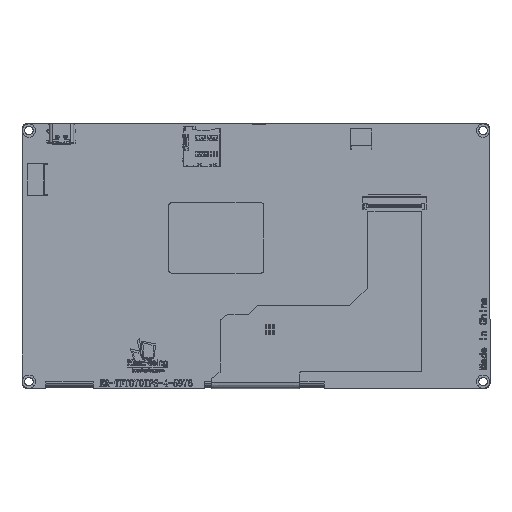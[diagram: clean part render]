
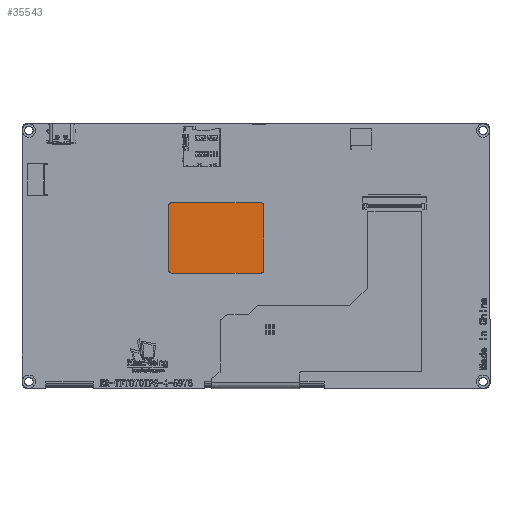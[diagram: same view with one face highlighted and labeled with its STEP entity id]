
A CAD part, top view. The second image highlights one B-rep face of the part: STEP entity #35543.
In plain terms, the highlighted planar face has unit normal (0, 0, 1).
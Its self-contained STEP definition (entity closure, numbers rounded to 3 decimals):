
#735 = EDGE_CURVE ( 'NONE', #59012, #121154, #160340, .T. ) ;
#4632 = ORIENTED_EDGE ( 'NONE', *, *, #67791, .T. ) ;
#4870 = CARTESIAN_POINT ( 'NONE',  ( 1.99, 19.1, 4.6 ) ) ;
#5733 = DIRECTION ( 'NONE',  ( -1., 0., 0. ) ) ;
#6706 = VERTEX_POINT ( 'NONE', #99974 ) ;
#11250 = LINE ( 'NONE', #101913, #107664 ) ;
#12393 = EDGE_CURVE ( 'NONE', #6706, #69434, #11250, .T. ) ;
#16016 = CARTESIAN_POINT ( 'NONE',  ( -33.01, -5.4, 4.6 ) ) ;
#18873 = DIRECTION ( 'NONE',  ( 1., 0., 0. ) ) ;
#21912 = ORIENTED_EDGE ( 'NONE', *, *, #76486, .T. ) ;
#23375 = CARTESIAN_POINT ( 'NONE',  ( 1.99, -5.4, 4.6 ) ) ;
#25364 = CARTESIAN_POINT ( 'NONE',  ( -32.01, -5.4, 4.6 ) ) ;
#27019 = PLANE ( 'NONE',  #149132 ) ;
#28118 = VECTOR ( 'NONE', #58661, 1000. ) ;
#28986 = CARTESIAN_POINT ( 'NONE',  ( -33.01, 19.1, 4.6 ) ) ;
#34645 = DIRECTION ( 'NONE',  ( 0., -1., 0. ) ) ;
#35101 = CIRCLE ( 'NONE', #85647, 1. ) ;
#35543 = ADVANCED_FACE ( 'NONE', ( #114453 ), #27019, .T. ) ;
#35807 = DIRECTION ( 'NONE',  ( 0., 0., 1. ) ) ;
#38831 = CIRCLE ( 'NONE', #150525, 1. ) ;
#39330 = VECTOR ( 'NONE', #5733, 1000. ) ;
#42998 = EDGE_LOOP ( 'NONE', ( #4632, #111215, #51170, #21912, #120371, #57187, #51172, #116557 ) ) ;
#51170 = ORIENTED_EDGE ( 'NONE', *, *, #99809, .T. ) ;
#51172 = ORIENTED_EDGE ( 'NONE', *, *, #136321, .T. ) ;
#52786 = DIRECTION ( 'NONE',  ( 1., 0., 0. ) ) ;
#54325 = AXIS2_PLACEMENT_3D ( 'NONE', #4870, #157922, #107183 ) ;
#57187 = ORIENTED_EDGE ( 'NONE', *, *, #83958, .T. ) ;
#58661 = DIRECTION ( 'NONE',  ( 0., 1., 0. ) ) ;
#59012 = VERTEX_POINT ( 'NONE', #28986 ) ;
#64529 = DIRECTION ( 'NONE',  ( 0., 0., 1. ) ) ;
#65098 = CIRCLE ( 'NONE', #54325, 1. ) ;
#67791 = EDGE_CURVE ( 'NONE', #121154, #6706, #38831, .T. ) ;
#69434 = VERTEX_POINT ( 'NONE', #125352 ) ;
#69831 = VERTEX_POINT ( 'NONE', #112628 ) ;
#69940 = VERTEX_POINT ( 'NONE', #159063 ) ;
#71202 = CARTESIAN_POINT ( 'NONE',  ( 2.99, 19.1, 4.6 ) ) ;
#76486 = EDGE_CURVE ( 'NONE', #109454, #69940, #96888, .T. ) ;
#77072 = AXIS2_PLACEMENT_3D ( 'NONE', #23375, #35807, #163159 ) ;
#83958 = EDGE_CURVE ( 'NONE', #69831, #114384, #128990, .T. ) ;
#85647 = AXIS2_PLACEMENT_3D ( 'NONE', #89323, #140091, #104262 ) ;
#89323 = CARTESIAN_POINT ( 'NONE',  ( -32.01, 19.1, 4.6 ) ) ;
#94585 = DIRECTION ( 'NONE',  ( 0., 0., 1. ) ) ;
#96888 = LINE ( 'NONE', #71202, #28118 ) ;
#99809 = EDGE_CURVE ( 'NONE', #69434, #109454, #106207, .T. ) ;
#99974 = CARTESIAN_POINT ( 'NONE',  ( -32.01, -6.4, 4.6 ) ) ;
#100530 = VECTOR ( 'NONE', #34645, 1000. ) ;
#101649 = CARTESIAN_POINT ( 'NONE',  ( -32.01, 20.1, 4.6 ) ) ;
#101913 = CARTESIAN_POINT ( 'NONE',  ( -32.01, -6.4, 4.6 ) ) ;
#103982 = CARTESIAN_POINT ( 'NONE',  ( -32.01, 20.1, 4.6 ) ) ;
#104262 = DIRECTION ( 'NONE',  ( 1., 0., 0. ) ) ;
#106207 = CIRCLE ( 'NONE', #77072, 1. ) ;
#107183 = DIRECTION ( 'NONE',  ( -1., 0., 0. ) ) ;
#107664 = VECTOR ( 'NONE', #152603, 1000. ) ;
#109454 = VERTEX_POINT ( 'NONE', #159577 ) ;
#111215 = ORIENTED_EDGE ( 'NONE', *, *, #12393, .T. ) ;
#112628 = CARTESIAN_POINT ( 'NONE',  ( 1.99, 20.1, 4.6 ) ) ;
#114384 = VERTEX_POINT ( 'NONE', #101649 ) ;
#114453 = FACE_OUTER_BOUND ( 'NONE', #42998, .T. ) ;
#116557 = ORIENTED_EDGE ( 'NONE', *, *, #735, .T. ) ;
#120371 = ORIENTED_EDGE ( 'NONE', *, *, #156777, .T. ) ;
#121154 = VERTEX_POINT ( 'NONE', #16016 ) ;
#125352 = CARTESIAN_POINT ( 'NONE',  ( 1.99, -6.4, 4.6 ) ) ;
#128990 = LINE ( 'NONE', #103982, #39330 ) ;
#136321 = EDGE_CURVE ( 'NONE', #114384, #59012, #35101, .T. ) ;
#140091 = DIRECTION ( 'NONE',  ( 0., 0., 1. ) ) ;
#145347 = CARTESIAN_POINT ( 'NONE',  ( -32.01, -5.4, 4.6 ) ) ;
#149132 = AXIS2_PLACEMENT_3D ( 'NONE', #25364, #64529, #52786 ) ;
#150525 = AXIS2_PLACEMENT_3D ( 'NONE', #145347, #94585, #18873 ) ;
#152603 = DIRECTION ( 'NONE',  ( 1., 0., 0. ) ) ;
#156777 = EDGE_CURVE ( 'NONE', #69940, #69831, #65098, .T. ) ;
#157922 = DIRECTION ( 'NONE',  ( 0., 0., 1. ) ) ;
#159063 = CARTESIAN_POINT ( 'NONE',  ( 2.99, 19.1, 4.6 ) ) ;
#159577 = CARTESIAN_POINT ( 'NONE',  ( 2.99, -5.4, 4.6 ) ) ;
#160340 = LINE ( 'NONE', #163615, #100530 ) ;
#163159 = DIRECTION ( 'NONE',  ( 1., 0., 0. ) ) ;
#163615 = CARTESIAN_POINT ( 'NONE',  ( -33.01, 19.1, 4.6 ) ) ;
